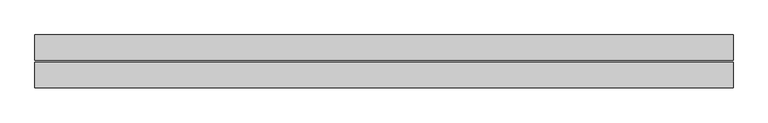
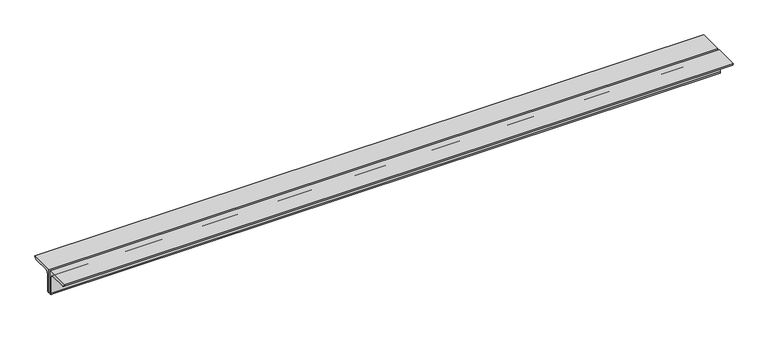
"""IFC4 building model written with IfcOpenShell, lengths in millimetres: beam geometry, Profilati doppi a L : DCED150x12."""

from ifc_helpers import new_model, si_unit, point, frame, frame_2d, origin, place, context, project, spatial, polyline, circle_curve, trimmed, segment, composite_curve, outline, extrude, source, transform, mapped, element, save


def beam_b3a487a1(model_context):
    return source(origin(), model_context, "Body", "SweptSolid", [
        extrude(outline(composite_curve([segment(polyline([(-6.0, 42.4), (-6.0, -107.6)]), True, "CONTINUOUS"), segment(trimmed(circle_curve(frame_2d((-6.0, -92.6)), 15.0), [point((-6.0, -107.6))], [point((-21.0, -92.6))], False, "CARTESIAN"), True, "CONTINUOUS"), segment(polyline([(-21.0, -92.6), (-21.0, 12.4)]), True, "CONTINUOUS"), segment(trimmed(circle_curve(frame_2d((-36.0, 12.4)), 15.0), [point((-21.0, 12.4))], [point((-36.0, 27.4))], True, "CARTESIAN"), True, "CONTINUOUS"), segment(polyline([(-36.0, 27.4), (-141.0, 27.4)]), True, "CONTINUOUS"), segment(trimmed(circle_curve(frame_2d((-141.0, 42.4)), 15.0), [point((-141.0, 27.4))], [point((-156.0, 42.4))], False, "CARTESIAN"), True, "CONTINUOUS"), segment(polyline([(-156.0, 42.4), (-6.0, 42.4)]), True, "CONTINUOUS")], self_intersect=False)), frame((-1955.0, 0.0, 0.0), z_axis=(1.0, 0.0, 0.0), x_axis=(0.0, 1.0, 0.0)), (0.0, 0.0, 1.0), 4135.0),
        extrude(outline(composite_curve([segment(polyline([(6.0, 42.4), (156.0, 42.4)]), True, "CONTINUOUS"), segment(trimmed(circle_curve(frame_2d((141.0, 42.4)), 15.0), [point((156.0, 42.4))], [point((141.0, 27.4))], False, "CARTESIAN"), True, "CONTINUOUS"), segment(polyline([(141.0, 27.4), (36.0, 27.4)]), True, "CONTINUOUS"), segment(trimmed(circle_curve(frame_2d((36.0, 12.4)), 15.0), [point((36.0, 27.4))], [point((21.0, 12.4))], True, "CARTESIAN"), True, "CONTINUOUS"), segment(polyline([(21.0, 12.4), (21.0, -92.6)]), True, "CONTINUOUS"), segment(trimmed(circle_curve(frame_2d((6.0, -92.6)), 15.0), [point((21.0, -92.6))], [point((6.0, -107.6))], False, "CARTESIAN"), True, "CONTINUOUS"), segment(polyline([(6.0, -107.6), (6.0, 42.4)]), True, "CONTINUOUS")], self_intersect=False)), frame((-1955.0, 0.0, 0.0), z_axis=(1.0, 0.0, 0.0), x_axis=(0.0, 1.0, 0.0)), (0.0, 0.0, 1.0), 4135.0),
    ])


if __name__ == "__main__":
    model = new_model("IFC4")
    model_context = context("Model", 3, world=origin())
    ifc_project = project(units=[si_unit("LENGTHUNIT", "METRE", prefix="MILLI")], contexts=[model_context])
    site = spatial("IfcSite", under=ifc_project)
    building = spatial("IfcBuilding", under=site)
    placement = place(None, origin())
    beam_shape = beam_b3a487a1(model_context)
    element("IfcBeam", 1, ObjectType="Profilati doppi a L : DCED150x12", at=placement, inside=building, context=model_context, shape_type="MappedRepresentation", body=[
        mapped(beam_shape, transform((0.0, 0.0, 0.0), x_axis=(1.0, 0.0, 0.0), y_axis=(0.0, 1.0, 0.0), z_axis=(0.0, 0.0, 1.0))),
    ])
    save(model, "model.ifc")
